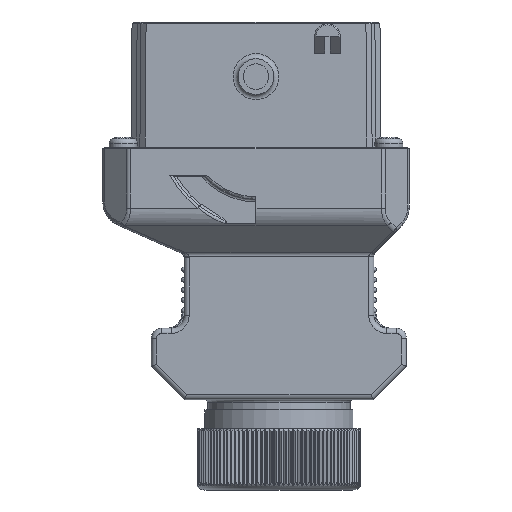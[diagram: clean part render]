
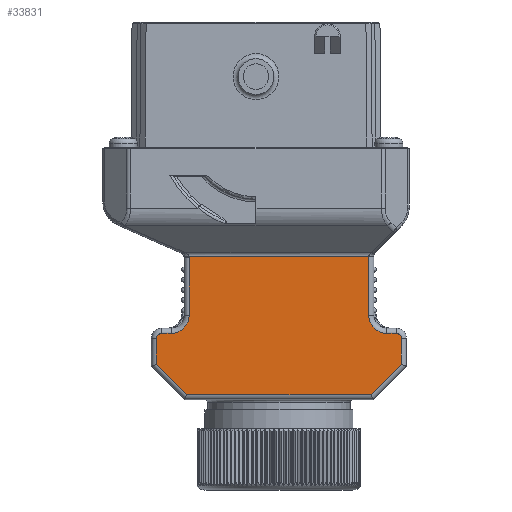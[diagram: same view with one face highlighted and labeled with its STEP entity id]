
A CAD part, front view. The second image highlights one B-rep face of the part: STEP entity #33831.
In plain terms, the highlighted planar face has unit normal (0, -1, 0).
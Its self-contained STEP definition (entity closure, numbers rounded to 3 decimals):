
#131 = DIRECTION ( 'NONE',  ( -1., 0., 0. ) ) ;
#915 = LINE ( 'NONE', #40685, #54778 ) ;
#1576 = DIRECTION ( 'NONE',  ( 0., 1., 0. ) ) ;
#1774 = EDGE_CURVE ( 'NONE', #30367, #23943, #32846, .T. ) ;
#2309 = VECTOR ( 'NONE', #105980, 1000. ) ;
#4038 = DIRECTION ( 'NONE',  ( 0., -1., 0. ) ) ;
#4850 = DIRECTION ( 'NONE',  ( 0., 0., 1. ) ) ;
#5960 = VECTOR ( 'NONE', #16545, 1000. ) ;
#6387 = VECTOR ( 'NONE', #23250, 1000. ) ;
#8452 = ORIENTED_EDGE ( 'NONE', *, *, #17666, .T. ) ;
#8946 = VECTOR ( 'NONE', #53627, 1000. ) ;
#9006 = EDGE_CURVE ( 'NONE', #93335, #13206, #72912, .T. ) ;
#10111 = ORIENTED_EDGE ( 'NONE', *, *, #130389, .T. ) ;
#10564 = DIRECTION ( 'NONE',  ( 0., 0., -1. ) ) ;
#13206 = VERTEX_POINT ( 'NONE', #39635 ) ;
#13390 = CARTESIAN_POINT ( 'NONE',  ( 22.1, -16., -45.5 ) ) ;
#13465 = LINE ( 'NONE', #106056, #79995 ) ;
#16231 = CARTESIAN_POINT ( 'NONE',  ( -16.6, -16., -61. ) ) ;
#16545 = DIRECTION ( 'NONE',  ( 0.707, 0., 0.707 ) ) ;
#16611 = EDGE_CURVE ( 'NONE', #13206, #79667, #72290, .T. ) ;
#17666 = EDGE_CURVE ( 'NONE', #81848, #92719, #54629, .T. ) ;
#17859 = CARTESIAN_POINT ( 'NONE',  ( 29.343, -16., -66.243 ) ) ;
#18414 = CARTESIAN_POINT ( 'NONE',  ( -13.115, -16., -45.906 ) ) ;
#19373 = DIRECTION ( 'NONE',  ( 0., 1., 0. ) ) ;
#21036 = CARTESIAN_POINT ( 'NONE',  ( -18.5, -16., -61. ) ) ;
#21424 = EDGE_CURVE ( 'NONE', #121898, #93335, #52714, .T. ) ;
#21785 = CARTESIAN_POINT ( 'NONE',  ( -14.1, -16., -45.906 ) ) ;
#22643 = CARTESIAN_POINT ( 'NONE',  ( 27.5, -16., -61. ) ) ;
#22915 = ORIENTED_EDGE ( 'NONE', *, *, #58537, .T. ) ;
#23250 = DIRECTION ( 'NONE',  ( 0., 0., -1. ) ) ;
#23352 = CARTESIAN_POINT ( 'NONE',  ( 28.5, -16., -62. ) ) ;
#23875 = CARTESIAN_POINT ( 'NONE',  ( -16.6, -16., -57.5 ) ) ;
#23943 = VERTEX_POINT ( 'NONE', #39526 ) ;
#29392 = ORIENTED_EDGE ( 'NONE', *, *, #126768, .T. ) ;
#29786 = CARTESIAN_POINT ( 'NONE',  ( -13.1, -16., -46.152 ) ) ;
#29871 = VERTEX_POINT ( 'NONE', #92606 ) ;
#29975 = DIRECTION ( 'NONE',  ( 0., 0., -1. ) ) ;
#30367 = VERTEX_POINT ( 'NONE', #51709 ) ;
#31317 = AXIS2_PLACEMENT_3D ( 'NONE', #101395, #101842, #82874 ) ;
#32846 = LINE ( 'NONE', #17859, #5960 ) ;
#33831 = ADVANCED_FACE ( 'NONE', ( #95178 ), #76652, .T. ) ;
#33976 = CARTESIAN_POINT ( 'NONE',  ( -18.5, -16., -61. ) ) ;
#36832 = AXIS2_PLACEMENT_3D ( 'NONE', #54439, #4038, #115533 ) ;
#39149 = VECTOR ( 'NONE', #129424, 1000. ) ;
#39526 = CARTESIAN_POINT ( 'NONE',  ( 28.5, -16., -67.086 ) ) ;
#39635 = CARTESIAN_POINT ( 'NONE',  ( 25.6, -16., -61. ) ) ;
#40685 = CARTESIAN_POINT ( 'NONE',  ( 23., -16., -73. ) ) ;
#41352 = ORIENTED_EDGE ( 'NONE', *, *, #16611, .T. ) ;
#43757 = EDGE_CURVE ( 'NONE', #60037, #50289, #64963, .T. ) ;
#45708 = DIRECTION ( 'NONE',  ( 0., -1., 0. ) ) ;
#45726 = VECTOR ( 'NONE', #105929, 1000. ) ;
#47119 = ORIENTED_EDGE ( 'NONE', *, *, #91898, .T. ) ;
#49095 = VERTEX_POINT ( 'NONE', #18414 ) ;
#50157 = DIRECTION ( 'NONE',  ( 0., 0., -1. ) ) ;
#50224 = VERTEX_POINT ( 'NONE', #68541 ) ;
#50289 = VERTEX_POINT ( 'NONE', #104730 ) ;
#51709 = CARTESIAN_POINT ( 'NONE',  ( 22.586, -16., -73. ) ) ;
#52457 = EDGE_LOOP ( 'NONE', ( #29392, #93702, #122217, #8452, #47119, #125034, #22915, #66424, #102641, #85550, #95858, #107222, #41352, #95306, #117650, #10111 ) ) ;
#52714 = CIRCLE ( 'NONE', #31317, 1. ) ;
#53451 = EDGE_CURVE ( 'NONE', #29871, #81848, #92424, .T. ) ;
#53627 = DIRECTION ( 'NONE',  ( 0., 0., 1. ) ) ;
#54154 = CARTESIAN_POINT ( 'NONE',  ( -19.5, -16., -67.5 ) ) ;
#54439 = CARTESIAN_POINT ( 'NONE',  ( -18.5, -16., -62. ) ) ;
#54629 = LINE ( 'NONE', #33976, #2309 ) ;
#54778 = VECTOR ( 'NONE', #91991, 1000. ) ;
#54971 = CARTESIAN_POINT ( 'NONE',  ( 23.1, -16., -60. ) ) ;
#55476 = AXIS2_PLACEMENT_3D ( 'NONE', #120583, #130749, #50157 ) ;
#58537 = EDGE_CURVE ( 'NONE', #50224, #122166, #116748, .T. ) ;
#58599 = CARTESIAN_POINT ( 'NONE',  ( -1.743, -16., -84.843 ) ) ;
#59358 = AXIS2_PLACEMENT_3D ( 'NONE', #54971, #45708, #96964 ) ;
#60037 = VERTEX_POINT ( 'NONE', #90041 ) ;
#60728 = CARTESIAN_POINT ( 'NONE',  ( 25.6, -16., -61. ) ) ;
#62465 = AXIS2_PLACEMENT_3D ( 'NONE', #23875, #94596, #10564 ) ;
#62575 = CARTESIAN_POINT ( 'NONE',  ( 22.1, -16., -57.5 ) ) ;
#62630 = CARTESIAN_POINT ( 'NONE',  ( -15.1, -16., -46.152 ) ) ;
#64752 = CARTESIAN_POINT ( 'NONE',  ( -19.5, -16., -62. ) ) ;
#64910 = VECTOR ( 'NONE', #131, 1000. ) ;
#64963 = CIRCLE ( 'NONE', #90614, 2. ) ;
#66424 = ORIENTED_EDGE ( 'NONE', *, *, #89534, .T. ) ;
#68541 = CARTESIAN_POINT ( 'NONE',  ( -19.5, -16., -67.086 ) ) ;
#70441 = EDGE_CURVE ( 'NONE', #108396, #29871, #75838, .T. ) ;
#72290 = CIRCLE ( 'NONE', #55476, 3.5 ) ;
#72912 = LINE ( 'NONE', #60728, #64910 ) ;
#75838 = LINE ( 'NONE', #126358, #45726 ) ;
#76652 = PLANE ( 'NONE',  #59358 ) ;
#78131 = CARTESIAN_POINT ( 'NONE',  ( -13.586, -16., -73. ) ) ;
#79667 = VERTEX_POINT ( 'NONE', #62575 ) ;
#79972 = CARTESIAN_POINT ( 'NONE',  ( 24.1, -16., -45.91 ) ) ;
#79995 = VECTOR ( 'NONE', #4850, 1000. ) ;
#80114 = LINE ( 'NONE', #21785, #86430 ) ;
#80159 = LINE ( 'NONE', #13390, #8946 ) ;
#81848 = VERTEX_POINT ( 'NONE', #16231 ) ;
#81946 = DIRECTION ( 'NONE',  ( -1., 0., 0. ) ) ;
#82409 = LINE ( 'NONE', #54154, #6387 ) ;
#82874 = DIRECTION ( 'NONE',  ( 0., 0., -1. ) ) ;
#84822 = VERTEX_POINT ( 'NONE', #64752 ) ;
#85550 = ORIENTED_EDGE ( 'NONE', *, *, #131362, .T. ) ;
#86430 = VECTOR ( 'NONE', #81946, 1000. ) ;
#89534 = EDGE_CURVE ( 'NONE', #122166, #30367, #915, .T. ) ;
#90041 = CARTESIAN_POINT ( 'NONE',  ( 22.1, -16., -45.91 ) ) ;
#90614 = AXIS2_PLACEMENT_3D ( 'NONE', #79972, #19373, #29975 ) ;
#91898 = EDGE_CURVE ( 'NONE', #92719, #84822, #106838, .T. ) ;
#91991 = DIRECTION ( 'NONE',  ( 1., 0., 0. ) ) ;
#92424 = CIRCLE ( 'NONE', #62465, 3.5 ) ;
#92606 = CARTESIAN_POINT ( 'NONE',  ( -13.1, -16., -57.5 ) ) ;
#92719 = VERTEX_POINT ( 'NONE', #21036 ) ;
#93335 = VERTEX_POINT ( 'NONE', #22643 ) ;
#93495 = CIRCLE ( 'NONE', #98217, 2. ) ;
#93702 = ORIENTED_EDGE ( 'NONE', *, *, #70441, .T. ) ;
#94028 = DIRECTION ( 'NONE',  ( 0., 0., -1. ) ) ;
#94596 = DIRECTION ( 'NONE',  ( 0., 1., 0. ) ) ;
#95178 = FACE_OUTER_BOUND ( 'NONE', #52457, .T. ) ;
#95306 = ORIENTED_EDGE ( 'NONE', *, *, #120094, .T. ) ;
#95858 = ORIENTED_EDGE ( 'NONE', *, *, #21424, .T. ) ;
#96964 = DIRECTION ( 'NONE',  ( 0., 0., -1. ) ) ;
#98217 = AXIS2_PLACEMENT_3D ( 'NONE', #62630, #1576, #94028 ) ;
#101395 = CARTESIAN_POINT ( 'NONE',  ( 27.5, -16., -62. ) ) ;
#101842 = DIRECTION ( 'NONE',  ( 0., -1., 0. ) ) ;
#102641 = ORIENTED_EDGE ( 'NONE', *, *, #1774, .T. ) ;
#104730 = CARTESIAN_POINT ( 'NONE',  ( 22.1, -16., -45.906 ) ) ;
#105929 = DIRECTION ( 'NONE',  ( 0., 0., -1. ) ) ;
#105980 = DIRECTION ( 'NONE',  ( -1., 0., 0. ) ) ;
#106056 = CARTESIAN_POINT ( 'NONE',  ( 28.5, -16., -62. ) ) ;
#106838 = CIRCLE ( 'NONE', #36832, 1. ) ;
#107222 = ORIENTED_EDGE ( 'NONE', *, *, #9006, .T. ) ;
#108396 = VERTEX_POINT ( 'NONE', #29786 ) ;
#115533 = DIRECTION ( 'NONE',  ( 0., 0., -1. ) ) ;
#116445 = EDGE_CURVE ( 'NONE', #84822, #50224, #82409, .T. ) ;
#116748 = LINE ( 'NONE', #58599, #39149 ) ;
#117650 = ORIENTED_EDGE ( 'NONE', *, *, #43757, .T. ) ;
#120094 = EDGE_CURVE ( 'NONE', #79667, #60037, #80159, .T. ) ;
#120583 = CARTESIAN_POINT ( 'NONE',  ( 25.6, -16., -57.5 ) ) ;
#121898 = VERTEX_POINT ( 'NONE', #23352 ) ;
#122166 = VERTEX_POINT ( 'NONE', #78131 ) ;
#122217 = ORIENTED_EDGE ( 'NONE', *, *, #53451, .T. ) ;
#125034 = ORIENTED_EDGE ( 'NONE', *, *, #116445, .T. ) ;
#126358 = CARTESIAN_POINT ( 'NONE',  ( -13.1, -16., -57.5 ) ) ;
#126768 = EDGE_CURVE ( 'NONE', #49095, #108396, #93495, .T. ) ;
#129424 = DIRECTION ( 'NONE',  ( 0.707, 0., -0.707 ) ) ;
#130389 = EDGE_CURVE ( 'NONE', #50289, #49095, #80114, .T. ) ;
#130749 = DIRECTION ( 'NONE',  ( 0., 1., 0. ) ) ;
#131362 = EDGE_CURVE ( 'NONE', #23943, #121898, #13465, .T. ) ;
